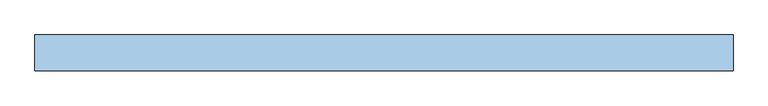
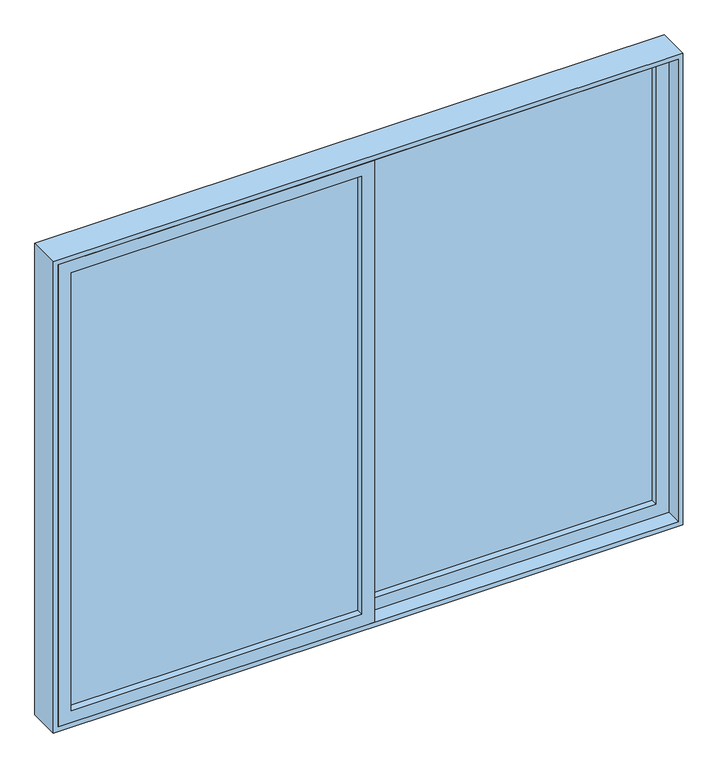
"""IFC4 building model written with IfcOpenShell, lengths in millimetres: window geometry, VENT_ALUM_CORR_2HOJAS_CORRE 1 : VD-7 / CORRE RECAM 1.96 X 1.55."""

from ifc_helpers import new_model, si_unit, frame, origin, place, context, project, spatial, polyline, outline, extrude, source, transform, mapped, element, save


def window_c59063e0(model_context):
    return source(origin(), model_context, "Body", "SweptSolid", [
        extrude(outline(polyline([(-20.0, -28.0), (-925.0, -28.0), (-925.0, -22.0), (-20.0, -22.0), (-20.0, -28.0)])), frame((0.0, 0.0, 855.0), z_axis=(0.0, 0.0, 1.0), x_axis=(1.0, 0.0, 0.0)), (0.0, 0.0, 1.0), 1440.0),
        extrude(outline(polyline([(815.0, -965.0), (815.0, 20.0), (2335.0, 20.0), (2335.0, -965.0), (815.0, -965.0)]), holes=[polyline([(2295.0, -925.0), (2295.0, -20.0), (855.0, -20.0), (855.0, -925.0), (2295.0, -925.0)])]), frame((0.0, -50.0, 0.0), z_axis=(0.0, 1.0, 0.0), x_axis=(0.0, 0.0, 1.0)), (0.0, 0.0, 1.0), 50.0),
        extrude(outline(polyline([(20.0, 28.0), (925.0, 28.0), (925.0, 22.0), (20.0, 22.0), (20.0, 28.0)])), frame((0.0, 0.0, 855.0), z_axis=(0.0, 0.0, 1.0), x_axis=(1.0, 0.0, 0.0)), (0.0, 0.0, 1.0), 1440.0),
        extrude(outline(polyline([(815.0, -20.0), (815.0, 965.0), (2335.0, 965.0), (2335.0, -20.0), (815.0, -20.0)]), holes=[polyline([(2295.0, 20.0), (2295.0, 925.0), (855.0, 925.0), (855.0, 20.0), (2295.0, 20.0)])]), frame((0.0, 0.0, 0.0), z_axis=(0.0, 1.0, 0.0), x_axis=(0.0, 0.0, 1.0)), (0.0, 0.0, 1.0), 50.0),
        extrude(outline(polyline([(800.0, -980.0), (800.0, 980.0), (2350.0, 980.0), (2350.0, -980.0), (800.0, -980.0)]), holes=[polyline([(2335.0, -965.0), (2335.0, 965.0), (815.0, 965.0), (815.0, -965.0), (2335.0, -965.0)])]), frame((0.0, -50.0, 0.0), z_axis=(0.0, 1.0, 0.0), x_axis=(0.0, 0.0, 1.0)), (0.0, 0.0, 1.0), 100.0),
    ])


if __name__ == "__main__":
    model = new_model("IFC4")
    model_context = context("Model", 3, world=origin())
    ifc_project = project(units=[si_unit("LENGTHUNIT", "METRE", prefix="MILLI")], contexts=[model_context])
    site = spatial("IfcSite", under=ifc_project)
    building = spatial("IfcBuilding", under=site)
    placement = place(None, origin())
    window_shape = window_c59063e0(model_context)
    element("IfcWindow", 1, ObjectType="VENT_ALUM_CORR_2HOJAS_CORRE 1 : VD-7 / CORRE RECAM 1.96 X 1.55", at=placement, inside=building, context=model_context, shape_type="MappedRepresentation", body=[
        mapped(window_shape, transform((0.0, 0.0, 0.0), x_axis=(1.0, 0.0, 0.0), y_axis=(0.0, 1.0, 0.0), z_axis=(0.0, 0.0, 1.0))),
    ])
    save(model, "model.ifc")
